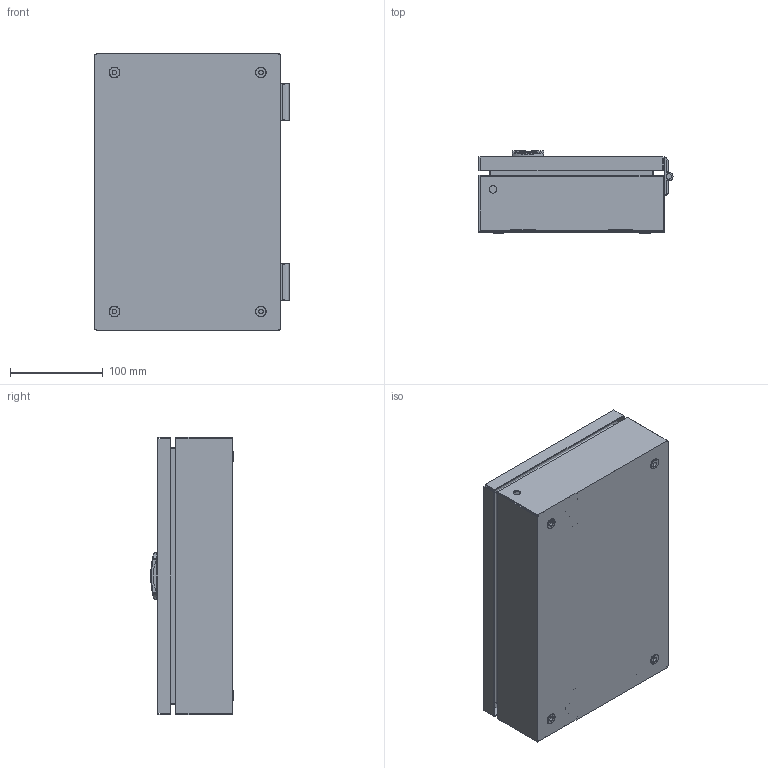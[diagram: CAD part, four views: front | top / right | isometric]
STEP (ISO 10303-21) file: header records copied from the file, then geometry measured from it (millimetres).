
FILE_DESCRIPTION(('Open CASCADE Model'),'2;1');
FILE_NAME('Open CASCADE Shape Model','2025-11-18T10:54:14',('Author'),( 'Open CASCADE'),'Open CASCADE STEP processor 7.8','Open CASCADE 7.8' ,'Unknown');
FILE_SCHEMA(('AUTOMOTIVE_DESIGN { 1 0 10303 214 1 1 1 1 }'));
Length unit declared in the file: millimetre
Products named in the file (21): Compound1; Compound2; Compound3; Solid1; Solid2; Solid3; Compound4; Compound5; Solid4; Solid5; Solid6; Compound6; Solid7; Solid8; Solid9; Solid10; Solid11; Solid12; Solid13; Solid14; Solid15
Assembly tree (35 placements, depth 5):
  Compound1
    Compound2
      Compound3
        Solid1
        Solid2  x2
        Solid3
      Compound4
        Compound5
          Solid4
          Solid3
        Solid5
        Solid6
        Compound6
          Solid7
          Solid8
          Solid9
          Solid10
      Solid11  x2
      Solid12  x4
      Solid13  x4
      Solid14  x4
    Solid15  x4
Bounding box: 209.4 x 89.04 x 300 mm (x, y, z)
Volume: 405240.9 mm3; surface area: 539237.5 mm2
Topology: 36 solids, 36 shells, 1144 faces, 2841 edges, 1800 vertices
Faces by surface type: plane 549, cylinder 226, bspline 205, cone 94, torus 53, sphere 17
Full cylindrical faces by diameter (mm): 3.2 x4, 4 x18, 4.2 x8, 5 x13, 5.15 x4, 5.5 x4, 5.8 x2, 5.857 x8, 6 x5, 7.5 x2, 8 x9, 8.4 x4, 9.6 x1, 11.5 x4, 12 x1, 12.7 x1, 15.6 x1
Entity records: 38144 total; most frequent: CARTESIAN_POINT 18683, ORIENTED_EDGE 4324, DIRECTION 3349, EDGE_CURVE 2162, VERTEX_POINT 1389, AXIS2_PLACEMENT_3D 1200, FACE_BOUND 953, EDGE_LOOP 953
